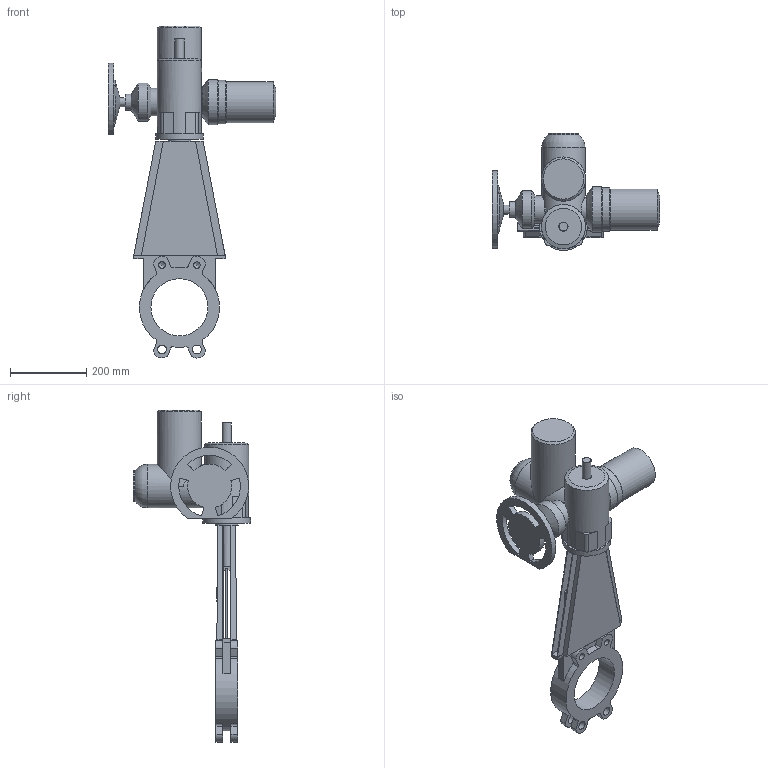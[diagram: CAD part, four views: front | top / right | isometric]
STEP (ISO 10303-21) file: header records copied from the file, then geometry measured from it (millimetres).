
FILE_DESCRIPTION(('STEP AP203'), '1');
FILE_NAME('K51GVA_DN150+MT903.A 07', '', ('UNSPECIFIED'), ('UNSPECIFIED'), 'ASCON STEP Converter 1.6', 'ASCON Math Kernel', '');
FILE_SCHEMA(('CONFIG_CONTROL_DESIGN'));
Length unit declared in the file: millimetre
Bounding box: 440 x 307.5 x 872.4 mm (x, y, z)
Volume: 10378398.9 mm3; surface area: 883189.5 mm2
Topology: 1 solids, 1 shells, 240 faces, 644 edges, 413 vertices
Faces by surface type: plane 143, cylinder 82, cone 14, torus 1
Full cylindrical faces by diameter (mm): 8.5 x4, 12 x4, 17.294 x4, 23 x4, 24 x3, 42 x1, 60 x1, 66 x1, 72 x1, 80 x1, 100 x1, 108 x1, 114 x1, 115 x1, 116 x2, 119 x1, 125 x1, 150 x1
Entity records: 10282 total; most frequent: CARTESIAN_POINT 2378, DIRECTION 1252, ORIENTED_EDGE 1182, EDGE_CURVE 591, AXIS2_PLACEMENT_3D 447, VERTEX_POINT 409, LINE 358, VECTOR 358
